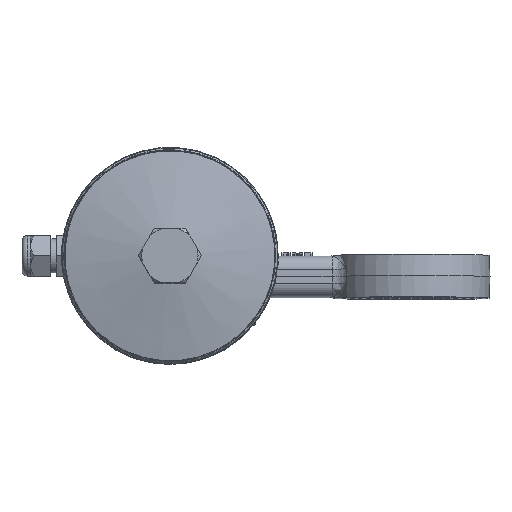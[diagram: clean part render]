
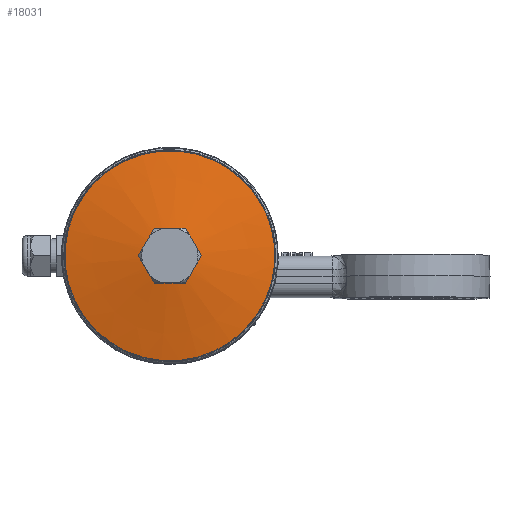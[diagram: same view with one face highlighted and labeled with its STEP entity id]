
A CAD part, top view. The second image highlights one B-rep face of the part: STEP entity #18031.
In plain terms, the highlighted conical face has half-angle 79.218 degrees and reference radius 38.398 mm.
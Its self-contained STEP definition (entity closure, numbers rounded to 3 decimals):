
#18000=CARTESIAN_POINT('',(12.482,33.852,227.878));
#18001=VERTEX_POINT('',#18000);
#18002=CARTESIAN_POINT('',(0.,42.5,227.878));
#18003=DIRECTION('',(0.,0.,1.0));
#18004=DIRECTION('',(0.822,-0.569,0.));
#18005=AXIS2_PLACEMENT_3D('',#18002,#18003,#18004);
#18006=CIRCLE('',#18005,15.185);
#18007=EDGE_CURVE('',#18001,#18001,#18006,.T.);
#18012=CARTESIAN_POINT('',(0.,42.5,223.457));
#18013=DIRECTION('',(0.,0.,-1.0));
#18014=DIRECTION('',(0.822,-0.569,0.));
#18015=AXIS2_PLACEMENT_3D('',#18012,#18013,#18014);
#18016=CONICAL_SURFACE('',#18015,38.398,79.218);
#18017=ORIENTED_EDGE('',*,*,#18007,.F.);
#18018=EDGE_LOOP('',(#18017));
#18019=FACE_OUTER_BOUND('',#18018,.T.);
#18020=CARTESIAN_POINT('',(50.643,7.413,219.037));
#18021=VERTEX_POINT('',#18020);
#18022=CARTESIAN_POINT('',(0.,42.5,219.037));
#18023=DIRECTION('',(0.,0.,1.0));
#18024=DIRECTION('',(0.822,-0.569,0.));
#18025=AXIS2_PLACEMENT_3D('',#18022,#18023,#18024);
#18026=CIRCLE('',#18025,61.61);
#18027=EDGE_CURVE('',#18021,#18021,#18026,.T.);
#18028=ORIENTED_EDGE('',*,*,#18027,.T.);
#18029=EDGE_LOOP('',(#18028));
#18030=FACE_BOUND('',#18029,.T.);
#18031=ADVANCED_FACE('',(#18019,#18030),#18016,.T.);
